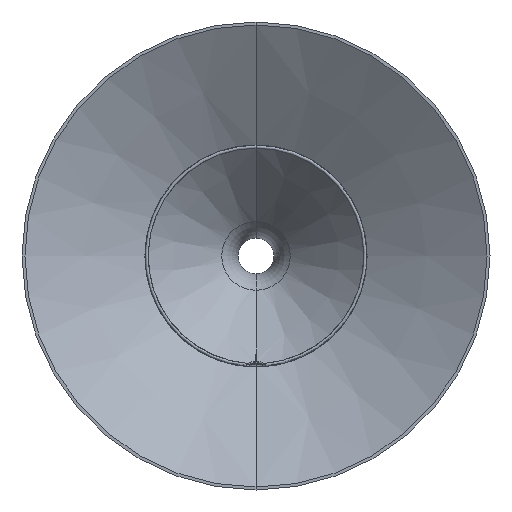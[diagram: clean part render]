
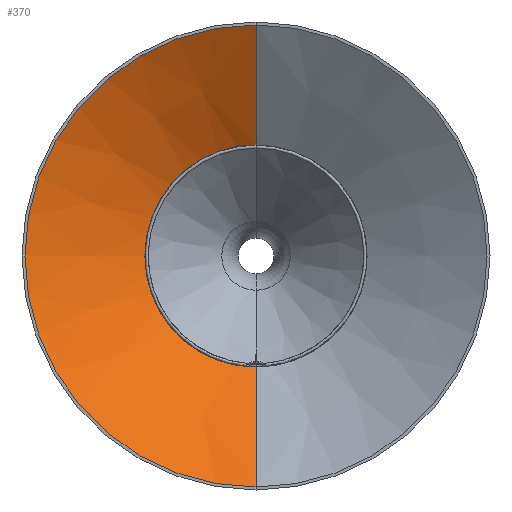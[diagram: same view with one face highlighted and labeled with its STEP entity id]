
A CAD part, front view. The second image highlights one B-rep face of the part: STEP entity #370.
In plain terms, the highlighted conical face has half-angle 57.504 degrees and reference radius 218.833 mm.
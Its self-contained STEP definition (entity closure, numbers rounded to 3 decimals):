
#68 = LINE ( 'NONE', #1235, #2370 ) ;
#271 = EDGE_CURVE ( 'NONE', #454, #427, #1409, .T. ) ;
#291 = DIRECTION ( 'NONE',  ( 0., -0.537, 0.843 ) ) ;
#343 = EDGE_CURVE ( 'NONE', #1523, #2110, #2264, .T. ) ;
#363 = DIRECTION ( 'NONE',  ( 0., 0., 1. ) ) ;
#370 = ADVANCED_FACE ( 'NONE', ( #758 ), #490, .F. ) ;
#427 = VERTEX_POINT ( 'NONE', #446 ) ;
#446 = CARTESIAN_POINT ( 'NONE',  ( 0., 463.109, 104.843 ) ) ;
#454 = VERTEX_POINT ( 'NONE', #643 ) ;
#490 = CONICAL_SURFACE ( 'NONE', #806, 218.833, 1.004 ) ;
#643 = CARTESIAN_POINT ( 'NONE',  ( 0., 463.109, -104.843 ) ) ;
#677 = DIRECTION ( 'NONE',  ( 0., -0.537, -0.843 ) ) ;
#758 = FACE_OUTER_BOUND ( 'NONE', #1606, .T. ) ;
#806 = AXIS2_PLACEMENT_3D ( 'NONE', #1529, #1956, #811 ) ;
#811 = DIRECTION ( 'NONE',  ( 0., 0., -1. ) ) ;
#840 = CARTESIAN_POINT ( 'NONE',  ( 0., 463.109, 0. ) ) ;
#1235 = CARTESIAN_POINT ( 'NONE',  ( 0., 390.5, 218.833 ) ) ;
#1253 = DIRECTION ( 'NONE',  ( 0., 0., 1. ) ) ;
#1363 = ORIENTED_EDGE ( 'NONE', *, *, #2099, .T. ) ;
#1409 = CIRCLE ( 'NONE', #2080, 104.843 ) ;
#1478 = AXIS2_PLACEMENT_3D ( 'NONE', #2312, #2301, #363 ) ;
#1523 = VERTEX_POINT ( 'NONE', #2328 ) ;
#1529 = CARTESIAN_POINT ( 'NONE',  ( 0., 390.5, 0. ) ) ;
#1586 = LINE ( 'NONE', #2142, #2231 ) ;
#1606 = EDGE_LOOP ( 'NONE', ( #2106, #1363, #2432, #1697 ) ) ;
#1697 = ORIENTED_EDGE ( 'NONE', *, *, #1751, .F. ) ;
#1751 = EDGE_CURVE ( 'NONE', #454, #1523, #1586, .T. ) ;
#1826 = CARTESIAN_POINT ( 'NONE',  ( 0., 390.5, 218.833 ) ) ;
#1956 = DIRECTION ( 'NONE',  ( 0., -1., 0. ) ) ;
#2080 = AXIS2_PLACEMENT_3D ( 'NONE', #840, #2390, #1253 ) ;
#2099 = EDGE_CURVE ( 'NONE', #427, #2110, #68, .T. ) ;
#2106 = ORIENTED_EDGE ( 'NONE', *, *, #271, .T. ) ;
#2110 = VERTEX_POINT ( 'NONE', #1826 ) ;
#2142 = CARTESIAN_POINT ( 'NONE',  ( 0., 390.5, -218.833 ) ) ;
#2231 = VECTOR ( 'NONE', #677, 1000. ) ;
#2264 = CIRCLE ( 'NONE', #1478, 218.833 ) ;
#2301 = DIRECTION ( 'NONE',  ( 0., 1., 0. ) ) ;
#2312 = CARTESIAN_POINT ( 'NONE',  ( 0., 390.5, 0. ) ) ;
#2328 = CARTESIAN_POINT ( 'NONE',  ( 0., 390.5, -218.833 ) ) ;
#2370 = VECTOR ( 'NONE', #291, 1000. ) ;
#2390 = DIRECTION ( 'NONE',  ( 0., 1., 0. ) ) ;
#2432 = ORIENTED_EDGE ( 'NONE', *, *, #343, .F. ) ;
